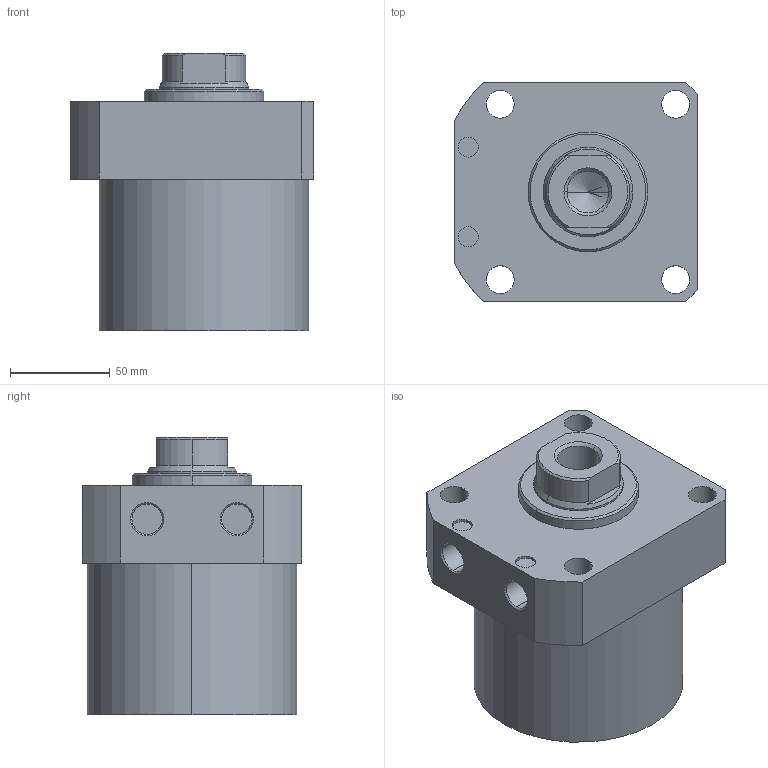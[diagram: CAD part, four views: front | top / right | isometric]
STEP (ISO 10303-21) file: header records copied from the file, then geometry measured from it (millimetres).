
FILE_DESCRIPTION (( 'STEP AP203' ), '1' );
FILE_NAME ('CLLR-105CA-055.STEP', '2019-12-19T01:33:18', ( '' ), ( '' ), 'SwSTEP 2.0', 'SolidWorks 2015', '' );
FILE_SCHEMA (( 'CONFIG_CONTROL_DESIGN' ));
Length unit declared in the file: millimetre
Products named in the file (1): CLLR-105CA-055
Bounding box: 122 x 110 x 139 mm (x, y, z)
Volume: 1160592.8 mm3; surface area: 82847.6 mm2
Topology: 1 solids, 1 shells, 63 faces, 148 edges, 93 vertices
Faces by surface type: cylinder 29, plane 19, cone 15
Entity records: 1909 total; most frequent: DIRECTION 338, CARTESIAN_POINT 327, ORIENTED_EDGE 292, EDGE_CURVE 146, AXIS2_PLACEMENT_3D 136, VERTEX_POINT 93, EDGE_LOOP 79, CIRCLE 72
